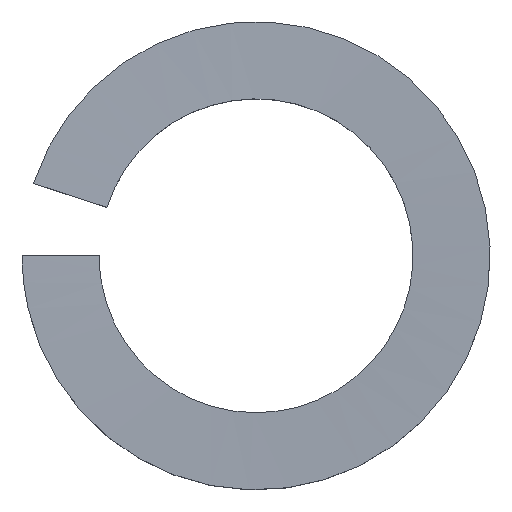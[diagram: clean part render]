
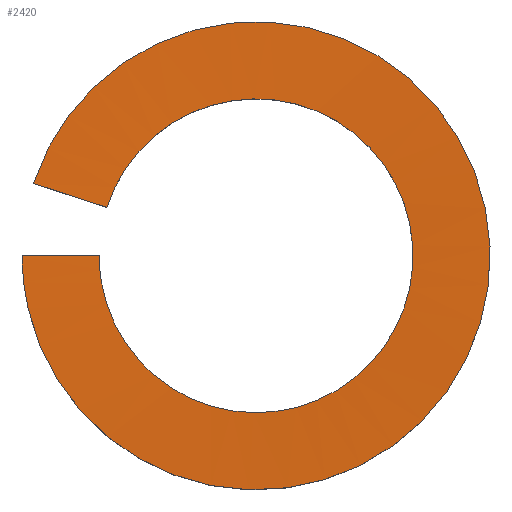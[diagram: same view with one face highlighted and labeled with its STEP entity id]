
A CAD part, top view. The second image highlights one B-rep face of the part: STEP entity #2420.
In plain terms, the highlighted free-form (B-spline) face has degree [3, 1] with [17, 2] control points.
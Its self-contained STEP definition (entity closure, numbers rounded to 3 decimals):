
#970 = CARTESIAN_POINT ('', (0.223, 5.942, 2.));
#980 = VERTEX_POINT ('', #970);
#990 = CARTESIAN_POINT ('', (0., 4.536, 1.5));
#1000 = VERTEX_POINT ('', #990);
#1010 = CARTESIAN_POINT ('', (0.223, 5.942, 2.));
#1020 = CARTESIAN_POINT ('', (0.454, 6.66, 1.986));
#1030 = CARTESIAN_POINT ('', (1.08, 7.646, 1.965));
#1040 = CARTESIAN_POINT ('', (2.304, 8.547, 1.938));
#1050 = CARTESIAN_POINT ('', (3.712, 9.12, 1.91));
#1060 = CARTESIAN_POINT ('', (5.657, 9.147, 1.875));
#1070 = CARTESIAN_POINT ('', (7.723, 8.059, 1.833));
#1080 = CARTESIAN_POINT ('', (9.019, 6.119, 1.792));
#1090 = CARTESIAN_POINT ('', (9.233, 3.794, 1.75));
#1100 = CARTESIAN_POINT ('', (8.311, 1.649, 1.708));
#1110 = CARTESIAN_POINT ('', (6.479, 0.205, 1.667));
#1120 = CARTESIAN_POINT ('', (4.178, -0.191, 1.625));
#1130 = CARTESIAN_POINT ('', (2.336, 0.435, 1.59));
#1140 = CARTESIAN_POINT ('', (1.174, 1.416, 1.562));
#1150 = CARTESIAN_POINT ('', (0.289, 2.651, 1.535));
#1160 = CARTESIAN_POINT ('', (-0.002, 3.782, 1.514));
#1170 = CARTESIAN_POINT ('', (0., 4.536, 1.5));
#1180 = B_SPLINE_CURVE_WITH_KNOTS ('', 3, (#1010, #1020, #1030, #1040, #1050, #1060, #1070, #1080, #1090, #1100, #1110, #1120, #1130, #1140, #1150, #1160, #1170), .UNSPECIFIED., .F., .U., (4, 1, 1, 1, 1, 1, 1, 1, 1, 1, 1, 1, 1, 1, 4), (0., 0.083, 0.125, 0.167, 0.25, 0.333, 0.417, 0.5, 0.583, 0.667, 0.75, 0.833, 0.875, 0.917, 1.), .UNSPECIFIED.);
#1190 = EDGE_CURVE ('', #980, #1000, #1180, .T.);
#1700 = CARTESIAN_POINT ('', (1.649, 5.479, 2.));
#1710 = VERTEX_POINT ('', #1700);
#1720 = CARTESIAN_POINT ('', (1.5, 4.536, 1.5));
#1730 = VERTEX_POINT ('', #1720);
#1740 = CARTESIAN_POINT ('', (1.649, 5.479, 2.));
#1750 = CARTESIAN_POINT ('', (1.805, 5.961, 1.986));
#1760 = CARTESIAN_POINT ('', (2.223, 6.62, 1.965));
#1770 = CARTESIAN_POINT ('', (3.044, 7.225, 1.938));
#1780 = CARTESIAN_POINT ('', (3.989, 7.609, 1.91));
#1790 = CARTESIAN_POINT ('', (5.292, 7.627, 1.875));
#1800 = CARTESIAN_POINT ('', (6.676, 6.898, 1.833));
#1810 = CARTESIAN_POINT ('', (7.546, 5.597, 1.792));
#1820 = CARTESIAN_POINT ('', (7.689, 4.039, 1.75));
#1830 = CARTESIAN_POINT ('', (7.072, 2.602, 1.708));
#1840 = CARTESIAN_POINT ('', (5.842, 1.632, 1.667));
#1850 = CARTESIAN_POINT ('', (4.3, 1.367, 1.625));
#1860 = CARTESIAN_POINT ('', (3.067, 1.787, 1.59));
#1870 = CARTESIAN_POINT ('', (2.287, 2.444, 1.562));
#1880 = CARTESIAN_POINT ('', (1.693, 3.273, 1.535));
#1890 = CARTESIAN_POINT ('', (1.499, 4.029, 1.514));
#1900 = CARTESIAN_POINT ('', (1.5, 4.536, 1.5));
#1910 = B_SPLINE_CURVE_WITH_KNOTS ('', 3, (#1740, #1750, #1760, #1770, #1780, #1790, #1800, #1810, #1820, #1830, #1840, #1850, #1860, #1870, #1880, #1890, #1900), .UNSPECIFIED., .F., .U., (4, 1, 1, 1, 1, 1, 1, 1, 1, 1, 1, 1, 1, 1, 4), (0., 0.083, 0.125, 0.167, 0.25, 0.333, 0.417, 0.5, 0.583, 0.667, 0.75, 0.833, 0.875, 0.917, 1.), .UNSPECIFIED.);
#1920 = EDGE_CURVE ('', #1710, #1730, #1910, .T.);
#1930 = ORIENTED_EDGE ('', *, *, #1920, .T.);
#1940 = CARTESIAN_POINT ('', (1.5, 4.536, 1.5));
#1950 = CARTESIAN_POINT ('', (0., 4.536, 1.5));
#1960 = B_SPLINE_CURVE_WITH_KNOTS ('', 1, (#1940, #1950), .UNSPECIFIED., .F., .U., (2, 2), (1., 2.), .UNSPECIFIED.);
#1970 = EDGE_CURVE ('', #1730, #1000, #1960, .T.);
#1980 = ORIENTED_EDGE ('', *, *, #1970, .T.);
#1990 = ORIENTED_EDGE ('', *, *, #1190, .F.);
#2000 = CARTESIAN_POINT ('', (1.649, 5.479, 2.));
#2010 = CARTESIAN_POINT ('', (0.223, 5.942, 2.));
#2020 = B_SPLINE_CURVE_WITH_KNOTS ('', 1, (#2000, #2010), .UNSPECIFIED., .F., .U., (2, 2), (1., 2.), .UNSPECIFIED.);
#2030 = EDGE_CURVE ('', #1710, #980, #2020, .T.);
#2040 = ORIENTED_EDGE ('', *, *, #2030, .F.);
#2050 = EDGE_LOOP ('', (#1930, #1980, #1990, #2040));
#2060 = FACE_OUTER_BOUND ('', #2050, .T.);
#2070 = CARTESIAN_POINT ('', (1.649, 5.479, 2.));
#2080 = CARTESIAN_POINT ('', (0.223, 5.942, 2.));
#2090 = CARTESIAN_POINT ('', (1.805, 5.961, 1.986));
#2100 = CARTESIAN_POINT ('', (0.454, 6.66, 1.986));
#2110 = CARTESIAN_POINT ('', (2.223, 6.62, 1.965));
#2120 = CARTESIAN_POINT ('', (1.08, 7.646, 1.965));
#2130 = CARTESIAN_POINT ('', (3.044, 7.225, 1.938));
#2140 = CARTESIAN_POINT ('', (2.304, 8.547, 1.938));
#2150 = CARTESIAN_POINT ('', (3.989, 7.609, 1.91));
#2160 = CARTESIAN_POINT ('', (3.712, 9.12, 1.91));
#2170 = CARTESIAN_POINT ('', (5.292, 7.627, 1.875));
#2180 = CARTESIAN_POINT ('', (5.657, 9.147, 1.875));
#2190 = CARTESIAN_POINT ('', (6.676, 6.898, 1.833));
#2200 = CARTESIAN_POINT ('', (7.723, 8.059, 1.833));
#2210 = CARTESIAN_POINT ('', (7.546, 5.597, 1.792));
#2220 = CARTESIAN_POINT ('', (9.019, 6.119, 1.792));
#2230 = CARTESIAN_POINT ('', (7.689, 4.039, 1.75));
#2240 = CARTESIAN_POINT ('', (9.233, 3.794, 1.75));
#2250 = CARTESIAN_POINT ('', (7.072, 2.602, 1.708));
#2260 = CARTESIAN_POINT ('', (8.311, 1.649, 1.708));
#2270 = CARTESIAN_POINT ('', (5.842, 1.632, 1.667));
#2280 = CARTESIAN_POINT ('', (6.479, 0.205, 1.667));
#2290 = CARTESIAN_POINT ('', (4.3, 1.367, 1.625));
#2300 = CARTESIAN_POINT ('', (4.178, -0.191, 1.625));
#2310 = CARTESIAN_POINT ('', (3.067, 1.787, 1.59));
#2320 = CARTESIAN_POINT ('', (2.336, 0.435, 1.59));
#2330 = CARTESIAN_POINT ('', (2.287, 2.444, 1.562));
#2340 = CARTESIAN_POINT ('', (1.174, 1.416, 1.562));
#2350 = CARTESIAN_POINT ('', (1.693, 3.273, 1.535));
#2360 = CARTESIAN_POINT ('', (0.289, 2.651, 1.535));
#2370 = CARTESIAN_POINT ('', (1.499, 4.029, 1.514));
#2380 = CARTESIAN_POINT ('', (-0.002, 3.782, 1.514));
#2390 = CARTESIAN_POINT ('', (1.5, 4.536, 1.5));
#2400 = CARTESIAN_POINT ('', (0., 4.536, 1.5));
#2410 = B_SPLINE_SURFACE_WITH_KNOTS ('', 3, 1, ((#2070, #2080), (#2090, #2100), (#2110, #2120), (#2130, #2140), (#2150, #2160), (#2170, #2180), (#2190, #2200), (#2210, #2220), (#2230, #2240), (#2250, #2260), (#2270, #2280), (#2290, #2300), (#2310, #2320), (#2330, #2340), (#2350, #2360), (#2370, #2380), (#2390, #2400)), .UNSPECIFIED., .F., .F., .U., (4, 1, 1, 1, 1, 1, 1, 1, 1, 1, 1, 1, 1, 1, 4), (2, 2), (0., 0.083, 0.125, 0.167, 0.25, 0.333, 0.417, 0.5, 0.583, 0.667, 0.75, 0.833, 0.875, 0.917, 1.), (1., 2.), .UNSPECIFIED.);
#2420 = ADVANCED_FACE ('', (#2060), #2410, .T.);
